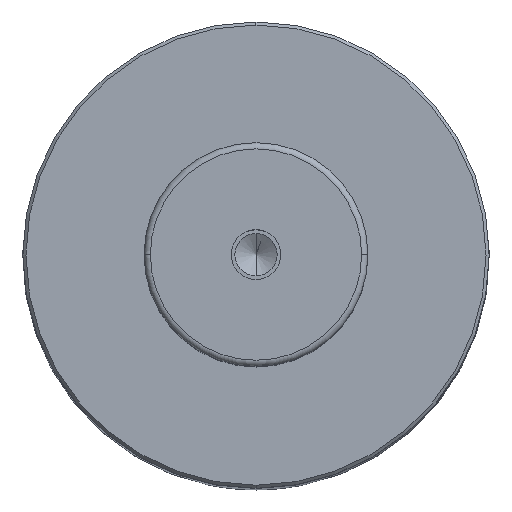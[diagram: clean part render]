
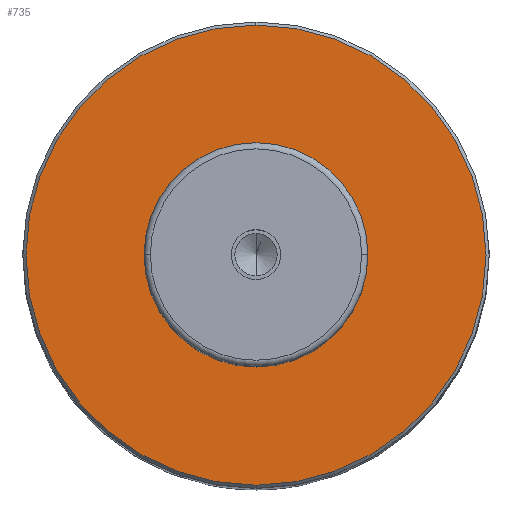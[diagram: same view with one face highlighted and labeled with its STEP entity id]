
A CAD part, top view. The second image highlights one B-rep face of the part: STEP entity #735.
In plain terms, the highlighted planar face has unit normal (0, 0, 1).
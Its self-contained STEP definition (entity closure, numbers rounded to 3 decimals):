
#515 = EDGE_CURVE( '', #839, #537, #1192, .T. );
#537 = VERTEX_POINT( '', #1216 );
#719 = VERTEX_POINT( '', #1422 );
#735 = ADVANCED_FACE( '', ( #1439, #1440 ), #1441, .T. );
#813 = VERTEX_POINT( '', #1529 );
#839 = VERTEX_POINT( '', #1557 );
#861 = EDGE_CURVE( '', #813, #719, #1580, .T. );
#903 = EDGE_CURVE( '', #537, #839, #1629, .T. );
#929 = EDGE_CURVE( '', #719, #813, #1658, .T. );
#1192 = CIRCLE( '', #1979, 18. );
#1216 = CARTESIAN_POINT( '', ( 0., 18., 157. ) );
#1422 = CARTESIAN_POINT( '', ( 0., 37., 157. ) );
#1439 = FACE_BOUND( '', #2300, .T. );
#1440 = FACE_OUTER_BOUND( '', #2301, .T. );
#1441 = PLANE( '', #2302 );
#1529 = CARTESIAN_POINT( '', ( 0., -37., 157. ) );
#1557 = CARTESIAN_POINT( '', ( 0., -18., 157. ) );
#1580 = CIRCLE( '', #2568, 37. );
#1629 = CIRCLE( '', #2636, 18. );
#1658 = CIRCLE( '', #2704, 37. );
#1979 = AXIS2_PLACEMENT_3D( '', #3044, #3045, #3046 );
#2300 = EDGE_LOOP( '', ( #3367, #3368 ) );
#2301 = EDGE_LOOP( '', ( #3369, #3370 ) );
#2302 = AXIS2_PLACEMENT_3D( '', #3371, #3372, #3373 );
#2568 = AXIS2_PLACEMENT_3D( '', #3504, #3505, #3506 );
#2636 = AXIS2_PLACEMENT_3D( '', #3576, #3577, #3578 );
#2704 = AXIS2_PLACEMENT_3D( '', #3615, #3616, #3617 );
#3044 = CARTESIAN_POINT( '', ( 0., 0., 157. ) );
#3045 = DIRECTION( '', ( 0., 0., 1. ) );
#3046 = DIRECTION( '', ( 0., 1., 0. ) );
#3367 = ORIENTED_EDGE( '', *, *, #903, .F. );
#3368 = ORIENTED_EDGE( '', *, *, #515, .F. );
#3369 = ORIENTED_EDGE( '', *, *, #929, .T. );
#3370 = ORIENTED_EDGE( '', *, *, #861, .T. );
#3371 = CARTESIAN_POINT( '', ( 0., 27.5, 157. ) );
#3372 = DIRECTION( '', ( 0., 0., 1. ) );
#3373 = DIRECTION( '', ( 0., 1., 0. ) );
#3504 = CARTESIAN_POINT( '', ( 0., 0., 157. ) );
#3505 = DIRECTION( '', ( 0., 0., 1. ) );
#3506 = DIRECTION( '', ( 0., 1., 0. ) );
#3576 = CARTESIAN_POINT( '', ( 0., 0., 157. ) );
#3577 = DIRECTION( '', ( 0., 0., 1. ) );
#3578 = DIRECTION( '', ( 0., 1., 0. ) );
#3615 = CARTESIAN_POINT( '', ( 0., 0., 157. ) );
#3616 = DIRECTION( '', ( 0., 0., 1. ) );
#3617 = DIRECTION( '', ( 0., 1., 0. ) );
